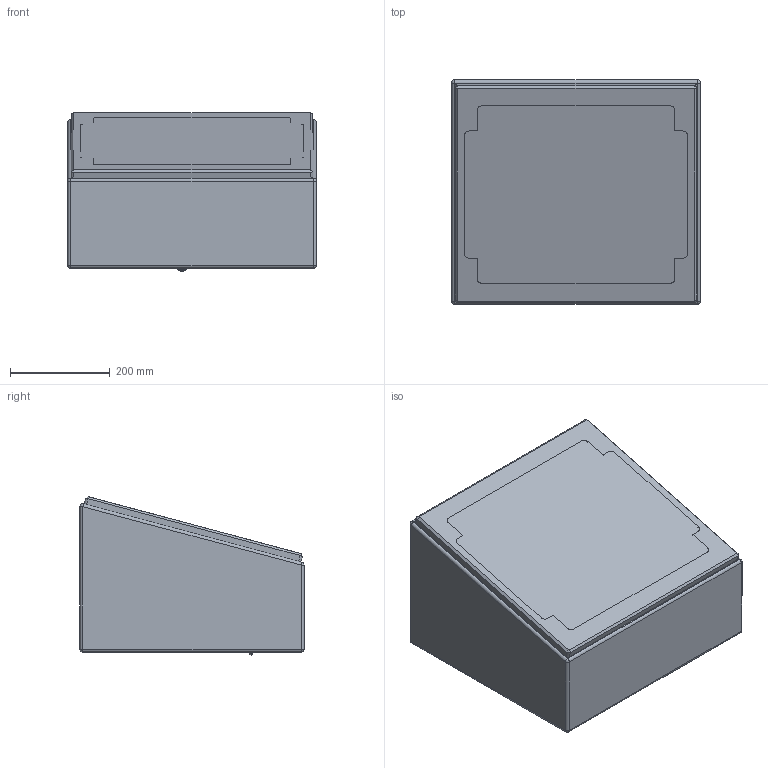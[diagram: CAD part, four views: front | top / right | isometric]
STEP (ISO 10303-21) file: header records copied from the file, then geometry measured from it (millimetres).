
FILE_DESCRIPTION(/* description */ ('','CAx-IF Rec.Pracs.---Representation and Presentation of Product Manufacturing Information (PMI)---4.0---2014-10-13'),/* implementation_level */ '2;1');
FILE_NAME(/* name */ 'THE12 PRO WEDGE + PASSIVE+ACTIVE EXT+BE_JAMES Dust Cap v2.step',/* time_stamp */ '2024-12-20T15:17:36+01:00',/* author */ (''),/* organization */ (''),/* preprocessor_version */ 'ST-DEVELOPER v20',/* originating_system */ 'Autodesk Translation Framework v13.20.0.188',/* authorisation */ '');
FILE_SCHEMA (('AP242_MANAGED_MODEL_BASED_3D_ENGINEERING_MIM_LF { 1 0 10303 442 1 1 4 }'));
Products named in the file (3): The12 (Be) PRO WEDGE_withPortHoles; COMBINE_FullSpkr; COMBINE_Grille
Assembly tree (2 placements, depth 2):
  The12 (Be) PRO WEDGE_withPortHoles
    COMBINE_FullSpkr
    COMBINE_Grille
Bounding box: 500 x 450 x 318.78 mm (x, y, z)
Volume: 49852976.4 mm3; surface area: 1687180.3 mm2
Topology: 16 solids, 16 shells, 1894 faces, 4809 edges, 3066 vertices
Faces by surface type: plane 1021, cylinder 591, torus 147, cone 86, bspline 28, sphere 21
Full cylindrical faces by diameter (mm): 1.2 x3, 3 x10, 3.2 x4, 3.5 x4, 4 x16, 4.5 x6, 5 x1, 5.026 x4, 5.5 x6, 6 x10, 6.5 x16, 8 x4, 14.9 x1, 17.6 x1, 21 x1, 23.6 x3, 24 x2, 24.25 x1, 25.9 x1, 26.5 x1, 34 x4, 314 x1
Entity records: 60584 total; most frequent: CARTESIAN_POINT 13618, DIRECTION 9893, ORIENTED_EDGE 9598, EDGE_CURVE 4799, AXIS2_PLACEMENT_3D 3433, VERTEX_POINT 3067, LINE 3027, VECTOR 3027
